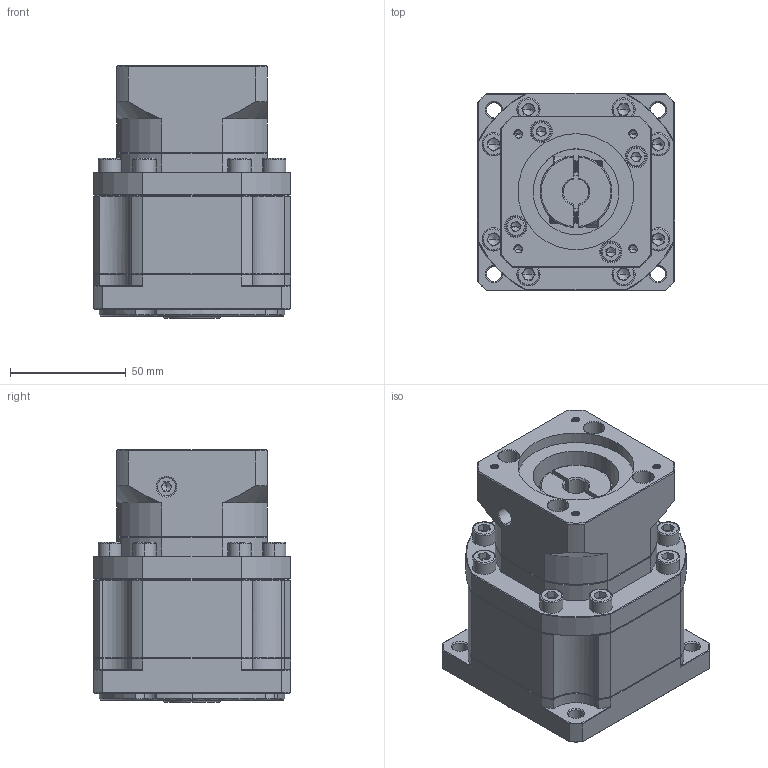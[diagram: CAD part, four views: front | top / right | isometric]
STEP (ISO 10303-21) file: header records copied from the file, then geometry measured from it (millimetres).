
FILE_DESCRIPTION (( 'STEP AP214' ), '1' );
FILE_NAME ('ZB90-K15-L2-11-50-70-M4.STEP', '2022-05-02T15:14:11', ( '' ), ( 'Microsoft' ), 'SwSTEP 2.0', 'SolidWorks 2016', '' );
FILE_SCHEMA (( 'AUTOMOTIVE_DESIGN' ));
Length unit declared in the file: millimetre
Products named in the file (1): ZB90-K15-L2-11-50-70-M4
Bounding box: 85 x 85 x 109 mm (x, y, z)
Volume: 525957.2 mm3; surface area: 74862.3 mm2
Topology: 6 solids, 6 shells, 2021 faces, 5305 edges, 3374 vertices
Faces by surface type: plane 998, cylinder 367, bspline 318, cone 316, torus 22
Entity records: 100994 total; most frequent: CARTESIAN_POINT 31395, ORIENTED_EDGE 10522, DIRECTION 8756, EDGE_CURVE 5261, VERTEX_POINT 3374, LINE 3258, VECTOR 3258, AXIS2_PLACEMENT_3D 2749
